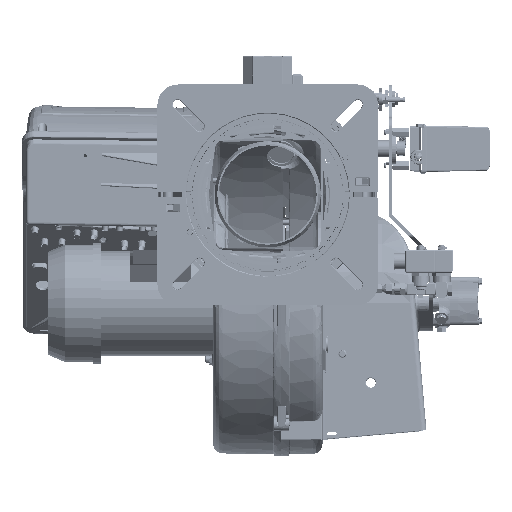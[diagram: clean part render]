
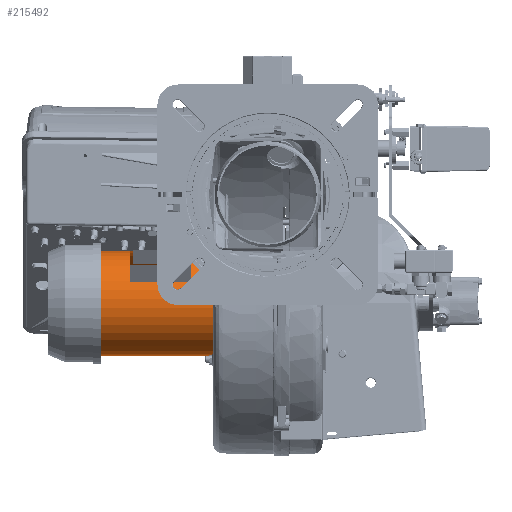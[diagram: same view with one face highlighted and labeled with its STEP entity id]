
A CAD part, top view. The second image highlights one B-rep face of the part: STEP entity #215492.
In plain terms, the highlighted cylindrical face has radius 76 mm (diameter 152 mm), a full revolution.
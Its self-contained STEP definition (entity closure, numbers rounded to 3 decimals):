
#3939 = VERTEX_POINT ( 'NONE', #90931 ) ;
#5207 = AXIS2_PLACEMENT_3D ( 'NONE', #276086, #133567, #300041 ) ;
#8731 = ORIENTED_EDGE ( 'NONE', *, *, #27208, .F. ) ;
#9987 = DIRECTION ( 'NONE',  ( 1., 0., 0. ) ) ;
#10624 = AXIS2_PLACEMENT_3D ( 'NONE', #248404, #9987, #105849 ) ;
#19781 = AXIS2_PLACEMENT_3D ( 'NONE', #147167, #150145, #150194 ) ;
#23234 = CARTESIAN_POINT ( 'NONE',  ( -192.73, 337.062, -694.227 ) ) ;
#25596 = EDGE_LOOP ( 'NONE', ( #158906 ) ) ;
#25984 = VERTEX_POINT ( 'NONE', #123098 ) ;
#27208 = EDGE_CURVE ( 'NONE', #66579, #265345, #122019, .T. ) ;
#28284 = CIRCLE ( 'NONE', #78847, 76. ) ;
#28580 = CARTESIAN_POINT ( 'NONE',  ( -111.23, 337.062, -694.227 ) ) ;
#40115 = ORIENTED_EDGE ( 'NONE', *, *, #75598, .F. ) ;
#61421 = ORIENTED_EDGE ( 'NONE', *, *, #82423, .F. ) ;
#66579 = VERTEX_POINT ( 'NONE', #237463 ) ;
#71364 = EDGE_CURVE ( 'NONE', #148073, #148073, #130194, .T. ) ;
#75598 = EDGE_CURVE ( 'NONE', #136451, #66579, #110911, .T. ) ;
#78225 = CIRCLE ( 'NONE', #5207, 76. ) ;
#78847 = AXIS2_PLACEMENT_3D ( 'NONE', #120249, #286694, #144176 ) ;
#82423 = EDGE_CURVE ( 'NONE', #265345, #3939, #289386, .T. ) ;
#84629 = CARTESIAN_POINT ( 'NONE',  ( -241.48, 261.384, -701.214 ) ) ;
#90931 = CARTESIAN_POINT ( 'NONE',  ( -111.23, 293.834, -632.491 ) ) ;
#95174 = DIRECTION ( 'NONE',  ( -1., 0., 0. ) ) ;
#99485 = VECTOR ( 'NONE', #160762, 1000. ) ;
#105849 = DIRECTION ( 'NONE',  ( 0., 0.574, -0.819 ) ) ;
#108630 = DIRECTION ( 'NONE',  ( 0., 0.574, -0.819 ) ) ;
#110911 = LINE ( 'NONE', #23234, #118296 ) ;
#113830 = CYLINDRICAL_SURFACE ( 'NONE', #10624, 76. ) ;
#118296 = VECTOR ( 'NONE', #95174, 1000. ) ;
#120249 = CARTESIAN_POINT ( 'NONE',  ( -76.98, 261.384, -701.214 ) ) ;
#121263 = FACE_OUTER_BOUND ( 'NONE', #169405, .T. ) ;
#122019 = CIRCLE ( 'NONE', #19781, 76. ) ;
#123098 = CARTESIAN_POINT ( 'NONE',  ( -76.98, 304.975, -763.47 ) ) ;
#128701 = FACE_OUTER_BOUND ( 'NONE', #25596, .T. ) ;
#130194 = CIRCLE ( 'NONE', #306599, 76. ) ;
#133567 = DIRECTION ( 'NONE',  ( -1., 0., 0. ) ) ;
#136451 = VERTEX_POINT ( 'NONE', #28580 ) ;
#144176 = DIRECTION ( 'NONE',  ( 0., 0.574, -0.819 ) ) ;
#147160 = ORIENTED_EDGE ( 'NONE', *, *, #246069, .F. ) ;
#147167 = CARTESIAN_POINT ( 'NONE',  ( -199.23, 261.384, -701.214 ) ) ;
#148073 = VERTEX_POINT ( 'NONE', #183973 ) ;
#150145 = DIRECTION ( 'NONE',  ( 1., 0., 0. ) ) ;
#150194 = DIRECTION ( 'NONE',  ( 0., -0.819, -0.574 ) ) ;
#155800 = ORIENTED_EDGE ( 'NONE', *, *, #251378, .F. ) ;
#158717 = CARTESIAN_POINT ( 'NONE',  ( -192.73, 293.834, -632.491 ) ) ;
#158906 = ORIENTED_EDGE ( 'NONE', *, *, #71364, .T. ) ;
#160762 = DIRECTION ( 'NONE',  ( 1., 0., 0. ) ) ;
#169405 = EDGE_LOOP ( 'NONE', ( #155800 ) ) ;
#174990 = EDGE_LOOP ( 'NONE', ( #147160, #61421, #8731, #40115 ) ) ;
#183973 = CARTESIAN_POINT ( 'NONE',  ( -241.48, 304.975, -763.47 ) ) ;
#215492 = ADVANCED_FACE ( 'NONE', ( #128701, #121263, #247827 ), #113830, .T. ) ;
#237463 = CARTESIAN_POINT ( 'NONE',  ( -199.23, 337.062, -694.227 ) ) ;
#246069 = EDGE_CURVE ( 'NONE', #3939, #136451, #78225, .T. ) ;
#247827 = FACE_BOUND ( 'NONE', #174990, .T. ) ;
#248404 = CARTESIAN_POINT ( 'NONE',  ( -192.73, 261.384, -701.214 ) ) ;
#251174 = DIRECTION ( 'NONE',  ( 1., 0., 0. ) ) ;
#251378 = EDGE_CURVE ( 'NONE', #25984, #25984, #28284, .T. ) ;
#265345 = VERTEX_POINT ( 'NONE', #281662 ) ;
#276086 = CARTESIAN_POINT ( 'NONE',  ( -111.23, 261.384, -701.214 ) ) ;
#281662 = CARTESIAN_POINT ( 'NONE',  ( -199.23, 293.834, -632.491 ) ) ;
#286694 = DIRECTION ( 'NONE',  ( 1., 0., 0. ) ) ;
#289386 = LINE ( 'NONE', #158717, #99485 ) ;
#300041 = DIRECTION ( 'NONE',  ( 0., 0.819, 0.574 ) ) ;
#306599 = AXIS2_PLACEMENT_3D ( 'NONE', #84629, #251174, #108630 ) ;
